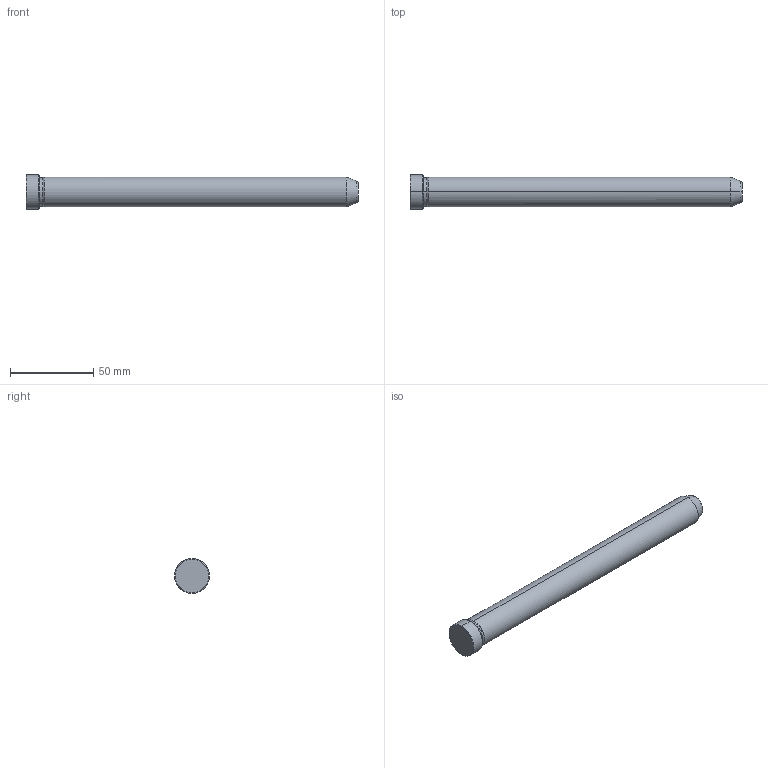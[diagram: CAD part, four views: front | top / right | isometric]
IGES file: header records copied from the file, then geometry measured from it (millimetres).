
Start section: START RECORD GO HERE.
Global section: file name: 549-18X200.igs; native system: DASSAULT SYSTEMES CATIA V5 R20 - www.3ds.com; preprocessor: CATIA Version 5 Release 20 ; author: Utente; organization: NB04-ASUS; date: 20211211.103853; units: millimetre
Bounding box: 200 x 21 x 21 mm (x, y, z)
Surface area: 11904.4 mm2 (no closed solid volume)
Topology: 0 solids, 0 shells, 19 faces, 112 edges, 112 vertices
Faces by surface type: revolution 16, plane 3
